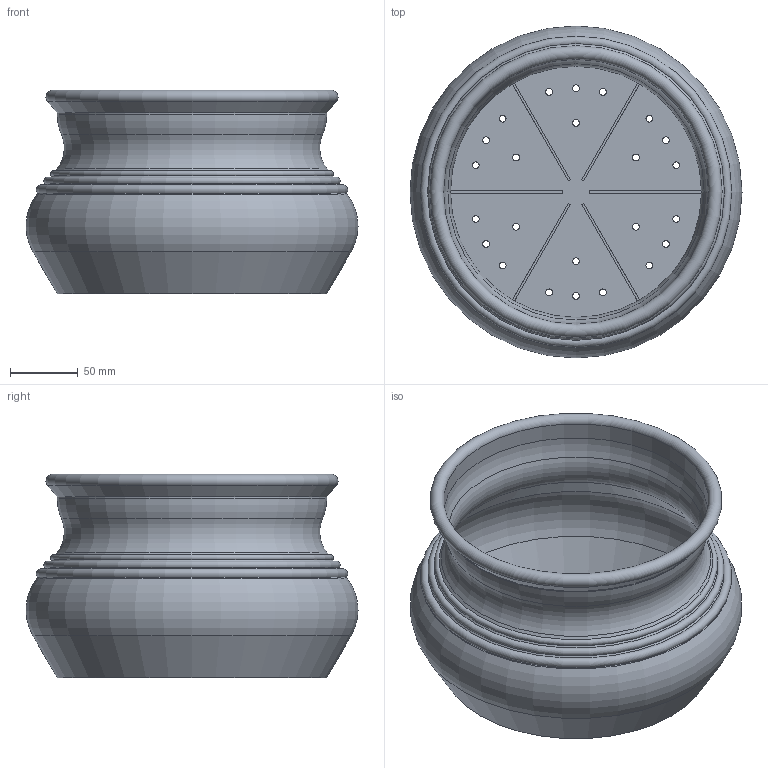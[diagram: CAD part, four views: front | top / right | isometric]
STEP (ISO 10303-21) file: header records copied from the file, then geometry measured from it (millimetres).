
FILE_DESCRIPTION(/* description */ (''),/* implementation_level */ '2;1');
FILE_NAME(/* name */ 'LR2406-S17-H150-D250_step.step',/* time_stamp */ '2024-02-01T11:03:08+01:00',/* author */ (''),/* organization */ (''),/* preprocessor_version */ 'ST-DEVELOPER v20',/* originating_system */ 'Autodesk Translation Framework v12.20.1.177',/* authorisation */ '');
FILE_SCHEMA (('AUTOMOTIVE_DESIGN { 1 0 10303 214 3 1 1 }'));
Length unit declared in the file: millimetre
Products named in the file (1): LR2406-S17-H150-D250
Bounding box: 244.71 x 244.71 x 150 mm (x, y, z)
Volume: 323954.6 mm3; surface area: 296203.5 mm2
Topology: 1 solids, 1 shells, 70 faces, 185 edges, 117 vertices
Faces by surface type: cylinder 32, plane 20, torus 10, cone 8
Full cylindrical faces by diameter (mm): 5 x24, 195.36 x1, 198.72 x1
Entity records: 2336 total; most frequent: DIRECTION 430, CARTESIAN_POINT 373, ORIENTED_EDGE 370, EDGE_CURVE 185, AXIS2_PLACEMENT_3D 174, EDGE_LOOP 118, VERTEX_POINT 117, CIRCLE 103
